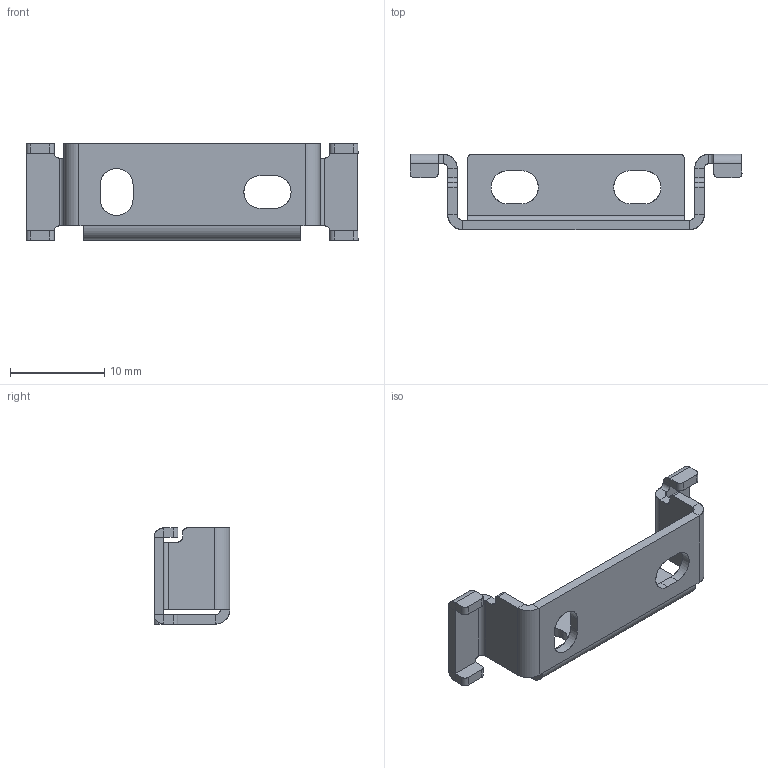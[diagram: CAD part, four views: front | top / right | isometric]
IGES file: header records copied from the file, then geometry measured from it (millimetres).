
Start section: SolidWorks IGES file using analytic representation for surfaces
Global section: file name: D:\±âÅ¸\BFX ºê¶óÄÏ PLM µî·Ï °Ç_241101\3D DATA\DRW180167 BFX BRACKET.IGS; native system: SolidWorks 2024; preprocessor: SolidWorks 2024; author: PC-10122011; date: 241205.102056; units: inch
Bounding box: 35.2 x 8 x 10.2 mm (x, y, z)
Surface area: 1306.5 mm2 (no closed solid volume)
Topology: 0 solids, 0 shells, 116 faces, 1042 edges, 1042 vertices
Faces by surface type: bspline 73, revolution 43
